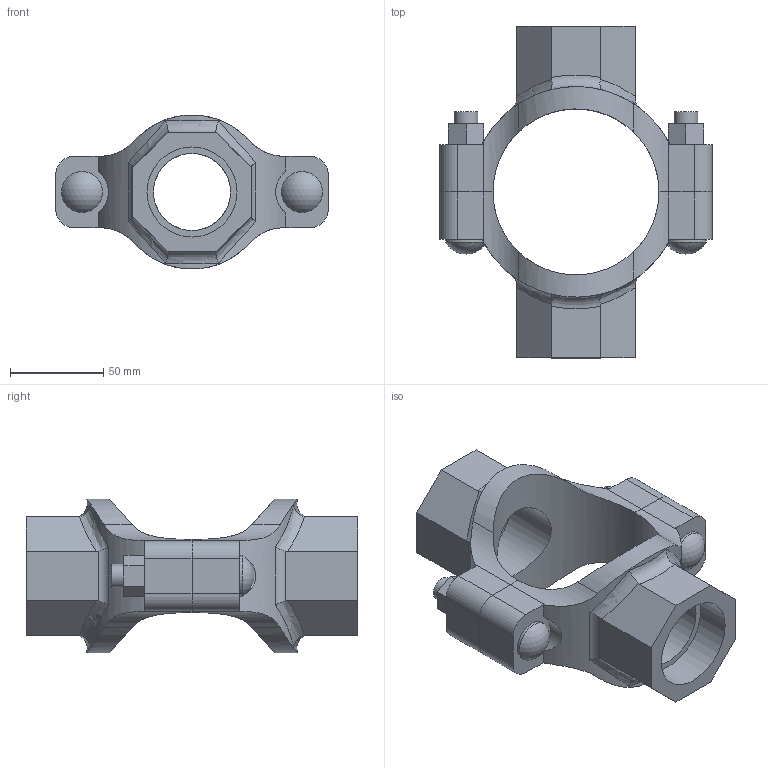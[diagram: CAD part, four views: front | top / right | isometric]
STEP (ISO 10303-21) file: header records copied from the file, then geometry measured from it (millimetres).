
FILE_DESCRIPTION(/* description */ ('VIC MECH-T BRANCH OUTLET CROSS STYLE 920N (THD)','CAx-IF Rec.Pracs.---Representation and Presentation of Product Manufacturing Information (PMI)---4.0---2014-10-13'),/* implementation_level */ '2;1');
FILE_NAME(/* name */ 'C:\Users\Vjadhav\AppData\Roaming\Autodesk\ApplicationPlugins\Back Up\Victaulic_IPS_Mechanical-Cross Outlet_Style 920N (FPT)\Victaulic_IPS_Mechanical-Cross Outlet_03.0x01.5x01.5 (80x40x40).stp',/* time_stamp */ '2020-08-06T18:57:45+05:00',/* author */ ('Vjadhav'),/* organization */ ('Victaulic'),/* preprocessor_version */ 'ST-DEVELOPER v17.2',/* originating_system */ 'Autodesk Inventor 2019',/* authorisation */ '');
FILE_SCHEMA (('AP242_MANAGED_MODEL_BASED_3D_ENGINEERING_MIM_LF { 1 0 10303 442 1 1 4 }'));
Length unit declared in the file: inch
Products named in the file (3): 920NT-03.0x01.5x01.5; 920NT-03.0x01.5; 920NT-03.0x01.5_1
Assembly tree (2 placements, depth 2):
  920NT-03.0x01.5x01.5
    920NT-03.0x01.5
    920NT-03.0x01.5_1
Bounding box: 146.05 x 177.8 x 82.52 mm (x, y, z)
Volume: 370371.2 mm3; surface area: 88372.7 mm2
Topology: 2 solids, 2 shells, 132 faces, 350 edges, 236 vertices
Faces by surface type: plane 68, cylinder 50, bspline 8, torus 4, sphere 2
Full cylindrical faces by diameter (mm): 12.7 x4, 21.982 x2, 41.275 x2, 48.26 x2
Entity records: 5196 total; most frequent: CARTESIAN_POINT 1683, ORIENTED_EDGE 700, DIRECTION 648, EDGE_CURVE 350, VERTEX_POINT 236, AXIS2_PLACEMENT_3D 231, LINE 186, VECTOR 186
